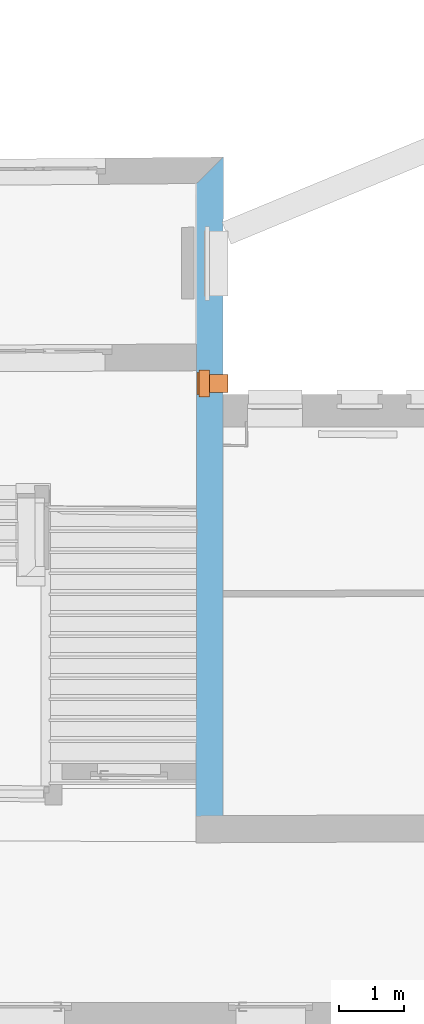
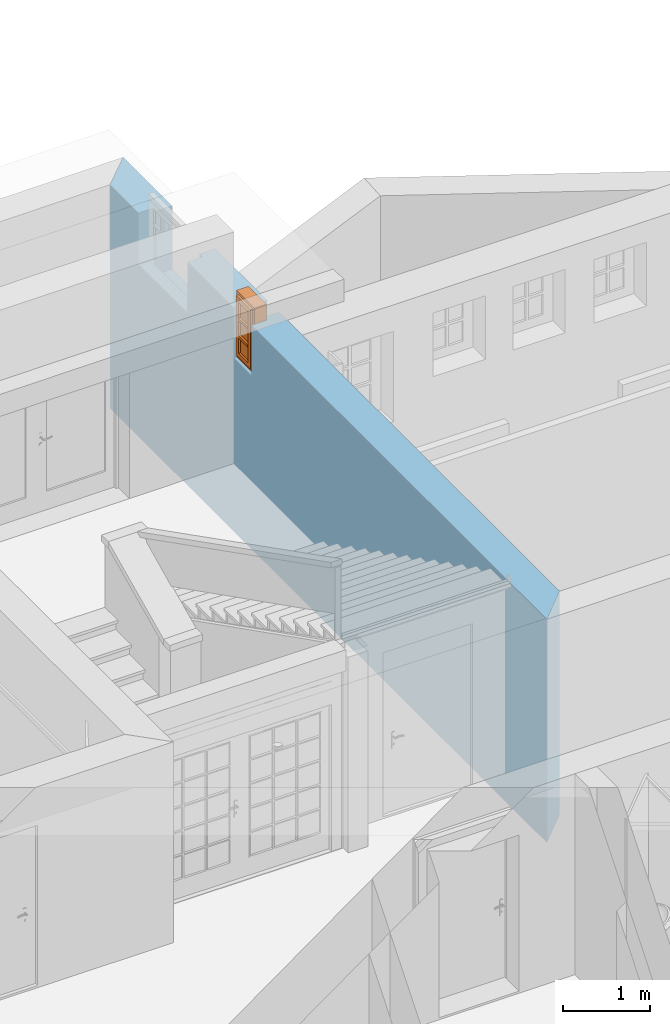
# One storey, part 41 of 196: 1 proxy, 2 openings, plus 1 element that does not belong to this part.
"""IFC2X3 building model written with IfcOpenShell, lengths in metres."""

from ifc_helpers import new_model, entity, si_unit, converted_unit, derived_unit, money_unit, direction, frame, origin_with_axes, origin_2d_with_axis, place, context, subcontext, project, spatial, polyline, rectangle, outline, extrude, faceted_brep, source, transform, mapped, material, layer, layer_set, layer_usage, type_object, element, fill, save


model = new_model("IFC2X3")

# Units and contexts
model_context = context("Model", 3, precision=1e-05, world=origin_with_axes(), true_north=direction((0.0, 1.0)))
body_context = subcontext(model_context, "Body", "Model", "MODEL_VIEW")
ifc_project = project(units=[si_unit("LENGTHUNIT", "METRE"), si_unit("AREAUNIT", "SQUARE_METRE"), si_unit("VOLUMEUNIT", "CUBIC_METRE"), converted_unit("PLANEANGLEUNIT", "DEGREE", entity("IfcPlaneAngleMeasure", 0.0174532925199), si_unit("PLANEANGLEUNIT", "RADIAN"), dimensions=[0, 0, 0, 0, 0, 0, 0]), money_unit("EUR"), converted_unit("TIMEUNIT", "Year", entity("IfcTimeMeasure", 31556926.0), si_unit("TIMEUNIT", "SECOND"), dimensions=[0, 0, 1, 0, 0, 0, 0]), si_unit("MASSUNIT", "GRAM", prefix="KILO"), si_unit("THERMODYNAMICTEMPERATUREUNIT", "DEGREE_CELSIUS"), si_unit("LUMINOUSINTENSITYUNIT", "LUMEN"), si_unit("ENERGYUNIT", "JOULE", prefix="MEGA"), derived_unit("THERMALCONDUCTANCEUNIT", [(si_unit("POWERUNIT", "WATT"), 1), (si_unit("LENGTHUNIT", "METRE"), -1), (si_unit("THERMODYNAMICTEMPERATUREUNIT", "KELVIN"), -1)]), derived_unit("SPECIFICHEATCAPACITYUNIT", [(si_unit("ENERGYUNIT", "JOULE"), 1), (si_unit("MASSUNIT", "GRAM", prefix="KILO"), -1), (si_unit("THERMODYNAMICTEMPERATUREUNIT", "KELVIN"), -1)]), derived_unit("MASSDENSITYUNIT", [(si_unit("MASSUNIT", "GRAM", prefix="KILO"), 1), (si_unit("VOLUMEUNIT", "CUBIC_METRE"), -1)])], contexts=[model_context])

# Site, building, storey
site_placement = place(None, origin_with_axes())
site = spatial("IfcSite", under=ifc_project, at=site_placement, Name="Gelände", CompositionType="ELEMENT")
building_placement = place(site_placement, origin_with_axes())
building = spatial("IfcBuilding", under=site, at=building_placement, Name="Gebäude", CompositionType="ELEMENT")
storey_placement = place(building_placement, frame((0.0, 0.0, -3.0), z_axis=(0.0, 0.0, 1.0), x_axis=(1.0, 0.0, 0.0)))
storey = spatial("IfcBuildingStorey", under=building, at=storey_placement, Name="KELLERGESCHOSS", CompositionType="ELEMENT", Elevation=-3.0)

# Wall, openings, proxy
ifc_material = material(Name="05_ALLGEMEIN - TRAGENDE BAUTEILE")
ifc_layer = layer(ifc_material, 0.41, ventilated="UNKNOWN")
ifc_layer_set = layer_set([ifc_layer], Name="05_ALLGEMEIN - TRAGENDE BAUTEILE 0.41")
ifc_layer_usage = layer_usage(ifc_layer_set, "AXIS2", "NEGATIVE", 0.41)
wall_type = type_object("IfcWallType", Name="05_ALLGEMEIN - TRAGENDE BAUTEILE 410", PredefinedType="ELEMENTEDWALL")
wall_placement = place(storey_placement, frame((-4.46535115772, 19.2470404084, -0.36), z_axis=(0.0, 0.0, 1.0), x_axis=(0.000440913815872, 0.999999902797, 0.0)))
wall = element("IfcWallStandardCase", 1, at=wall_placement, inside=storey, type_object=wall_type, material=ifc_layer_usage, Name="Wand-038", ObjectType="ELEMENTEDWALL", context=body_context, shape_type="SweptSolid", body=[
    extrude(outline(polyline([(0.414620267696, 0.0), (10.4949545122, 0.0), (10.0912333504, 0.41), (-0.00195577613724, 0.41), (0.414620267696, 0.0)])), origin_with_axes(), (0.0, 0.0, 1.0), 3.15),
])
opening_1_placement = place(wall_placement, frame((8.86652682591, 0.0, 2.42470466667), z_axis=(0.0, 0.0, 1.0), x_axis=(1.0, 0.0, 0.0)))
element("IfcOpeningElement", 2, at=opening_1_placement, cuts=wall, Name="Fenster-015", context=body_context, shape_type="SweptSolid", body=[
    extrude(rectangle(XDim=0.991326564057, YDim=0.884032, at=origin_2d_with_axis()), frame((0.0, 0.208421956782, 0.442016), z_axis=(0.0, 1.0, 0.0), x_axis=(1.0, 0.0, 0.0)), (0.0, 0.0, -1.0), 0.618421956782),
    extrude(rectangle(XDim=1.13132656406, YDim=0.954032, at=origin_2d_with_axis()), frame((0.0, 0.208421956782, 0.477016), z_axis=(0.0, -1.0, 0.0), x_axis=(1.0, 0.0, 0.0)), (0.0, 0.0, -1.0), 0.611578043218),
    extrude(rectangle(XDim=0.991326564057, YDim=0.162128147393, at=origin_2d_with_axis()), frame((0.0, 0.249259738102, -0.0810640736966), z_axis=(0.0, 1.0, 0.0), x_axis=(1.0, 0.0, 0.0)), (0.0, 0.0, -1.0), 0.45083778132),
])
opening_2_placement = place(wall_placement, frame((7.03221792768, 0.0, 2.44235066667), z_axis=(0.0, 0.0, 1.0), x_axis=(1.0, 0.0, 0.0)))
opening_2 = element("IfcOpeningElement", 3, at=opening_2_placement, cuts=wall, Name="Fenster-015", context=body_context, shape_type="SweptSolid", body=[
    extrude(rectangle(XDim=0.274211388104, YDim=0.866964, at=origin_2d_with_axis()), frame((0.0, 0.208421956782, 0.433482), z_axis=(0.0, 1.0, 0.0), x_axis=(1.0, 0.0, 0.0)), (0.0, 0.0, -1.0), 0.618421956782),
    extrude(rectangle(XDim=0.414211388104, YDim=0.936964, at=origin_2d_with_axis()), frame((0.0, 0.208421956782, 0.468482), z_axis=(0.0, -1.0, 0.0), x_axis=(1.0, 0.0, 0.0)), (0.0, 0.0, -1.0), 0.611578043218),
    extrude(rectangle(XDim=0.274211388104, YDim=0.162128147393, at=origin_2d_with_axis()), frame((0.0, 0.249259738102, -0.0810640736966), z_axis=(0.0, 1.0, 0.0), x_axis=(1.0, 0.0, 0.0)), (0.0, 0.0, -1.0), 0.45083778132),
])
building_element_proxy_type = type_object("IfcBuildingElementProxyType", Name="F Altbau 1-Fl 25", PredefinedType="NOTDEFINED")
shared_shape = source(origin_with_axes(), body_context, "Body", "Brep", [
    faceted_brep([(-0.137105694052, -0.14, 0.0), (-0.137105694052, -0.439259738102, -0.0527675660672), (0.137105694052, -0.439259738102, -0.0527675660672), (0.137105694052, -0.14, 0.0), (-0.137105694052, -0.11916221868, -0.118176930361), (-0.137105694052, -0.418421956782, -0.170944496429), (0.137105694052, -0.418421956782, -0.170944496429), (0.137105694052, -0.11916221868, -0.118176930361)], [[[0, 1, 2, 3]], [[0, 4, 5, 1]], [[1, 5, 6, 2]], [[3, 2, 6, 7]], [[4, 0, 3, 7]], [[5, 4, 7, 6]]]),
    faceted_brep([(-0.207105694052, -0.16, 0.0), (-0.207105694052, -0.14, 0.0), (-0.0971056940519, -0.14, 0.09), (-0.0971056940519, -0.16, 0.09), (-0.207105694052, -0.16, 0.936964), (-0.207105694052, -0.14, 0.936964), (-0.0971056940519, -0.14, 0.826964), (-0.0971056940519, -0.16, 0.826964)], [[[0, 1, 2, 3]], [[4, 5, 1, 0]], [[1, 5, 6, 2]], [[3, 2, 6, 7]], [[0, 3, 7, 4]], [[7, 6, 5, 4]]]),
    faceted_brep([(0.207105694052, -0.16, 0.0), (0.0971056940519, -0.16, 0.09), (0.0971056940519, -0.14, 0.09), (0.207105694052, -0.14, 0.0), (0.207105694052, -0.16, 0.936964), (0.0971056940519, -0.16, 0.826964), (0.0971056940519, -0.14, 0.826964), (0.207105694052, -0.14, 0.936964)], [[[0, 1, 2, 3]], [[0, 4, 5, 1]], [[1, 5, 6, 2]], [[3, 2, 6, 7]], [[4, 0, 3, 7]], [[5, 4, 7, 6]]]),
    faceted_brep([(-0.207105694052, -0.16, 0.0), (-0.207105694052, -0.14, 0.0), (0.207105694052, -0.14, 0.0), (0.207105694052, -0.16, 0.0), (-0.0971056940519, -0.16, 0.09), (-0.0971056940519, -0.14, 0.09), (0.0971056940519, -0.14, 0.09), (0.0971056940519, -0.16, 0.09)], [[[0, 1, 2, 3]], [[4, 5, 1, 0]], [[1, 5, 6, 2]], [[3, 2, 6, 7]], [[0, 3, 7, 4]], [[7, 6, 5, 4]]]),
    faceted_brep([(-0.207105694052, -0.16, 0.936964), (-0.207105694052, -0.14, 0.936964), (-0.0971056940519, -0.14, 0.826964), (-0.0971056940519, -0.16, 0.826964), (0.207105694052, -0.16, 0.936964), (0.207105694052, -0.14, 0.936964), (0.0971056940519, -0.14, 0.826964), (0.0971056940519, -0.16, 0.826964)], [[[0, 1, 2, 3]], [[4, 5, 1, 0]], [[1, 5, 6, 2]], [[3, 2, 6, 7]], [[0, 3, 7, 4]], [[7, 6, 5, 4]]]),
    faceted_brep([(-0.207105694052, -0.14, 0.0), (-0.207105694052, -0.11, 0.0), (0.207105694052, -0.11, 0.0), (0.207105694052, -0.14, 0.0), (-0.207105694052, -0.14, 0.936964), (-0.207105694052, -0.11, 0.936964), (0.207105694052, -0.11, 0.936964), (-0.117105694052, -0.11, 0.09), (0.117105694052, -0.11, 0.09), (0.117105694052, -0.11, 0.846964), (-0.117105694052, -0.11, 0.846964), (0.207105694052, -0.14, 0.936964), (-0.117105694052, -0.14, 0.09), (-0.117105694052, -0.14, 0.846964), (0.117105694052, -0.14, 0.846964), (0.117105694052, -0.14, 0.09)], [[[0, 1, 2, 3]], [[4, 5, 1, 0]], [[1, 5, 6, 2], [7, 8, 9, 10]], [[3, 2, 6, 11]], [[0, 3, 11, 4], [12, 13, 14, 15]], [[11, 6, 5, 4]], [[15, 8, 7, 12]], [[14, 9, 8, 15]], [[13, 10, 9, 14]], [[12, 7, 10, 13]]]),
    faceted_brep([(-0.207105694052, -0.11, 0.0), (-0.207105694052, -0.03, 0.0), (0.207105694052, -0.03, 0.0), (0.207105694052, -0.11, 0.0), (-0.207105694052, -0.11, 0.936964), (-0.207105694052, -0.03, 0.936964), (0.207105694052, -0.03, 0.936964), (-0.147105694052, -0.03, 0.06), (0.147105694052, -0.03, 0.06), (0.147105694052, -0.03, 0.876964), (-0.147105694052, -0.03, 0.876964), (0.207105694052, -0.11, 0.936964), (-0.147105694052, -0.11, 0.06), (-0.147105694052, -0.11, 0.876964), (0.147105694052, -0.11, 0.876964), (0.147105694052, -0.11, 0.06)], [[[0, 1, 2, 3]], [[4, 5, 1, 0]], [[1, 5, 6, 2], [7, 8, 9, 10]], [[3, 2, 6, 11]], [[0, 3, 11, 4], [12, 13, 14, 15]], [[11, 6, 5, 4]], [[15, 8, 7, 12]], [[14, 9, 8, 15]], [[13, 10, 9, 14]], [[12, 7, 10, 13]]]),
    faceted_brep([(-0.207105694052, -0.03, 0.0), (-0.207105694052, 0.0, 0.0), (-0.167105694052, 0.0, 0.06), (-0.167105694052, -0.03, 0.06), (-0.207105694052, -0.03, 0.936964), (-0.207105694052, 0.0, 0.936964), (-0.167105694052, 0.0, 0.896964), (-0.167105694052, -0.03, 0.896964)], [[[0, 1, 2, 3]], [[4, 5, 1, 0]], [[1, 5, 6, 2]], [[3, 2, 6, 7]], [[0, 3, 7, 4]], [[7, 6, 5, 4]]]),
    faceted_brep([(0.207105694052, -0.03, 0.0), (0.167105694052, -0.03, 0.06), (0.167105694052, 0.0, 0.06), (0.207105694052, 0.0, 0.0), (0.207105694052, -0.03, 0.936964), (0.167105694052, -0.03, 0.896964), (0.167105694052, 0.0, 0.896964), (0.207105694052, 0.0, 0.936964)], [[[0, 1, 2, 3]], [[0, 4, 5, 1]], [[1, 5, 6, 2]], [[3, 2, 6, 7]], [[4, 0, 3, 7]], [[5, 4, 7, 6]]]),
    faceted_brep([(-0.207105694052, -0.03, 0.0), (-0.207105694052, 0.0, 0.0), (0.207105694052, 0.0, 0.0), (0.207105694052, -0.03, 0.0), (-0.167105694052, -0.03, 0.06), (-0.167105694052, 0.0, 0.06), (0.167105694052, 0.0, 0.06), (0.167105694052, -0.03, 0.06)], [[[0, 1, 2, 3]], [[4, 5, 1, 0]], [[1, 5, 6, 2]], [[3, 2, 6, 7]], [[0, 3, 7, 4]], [[7, 6, 5, 4]]]),
    faceted_brep([(-0.207105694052, -0.03, 0.936964), (-0.207105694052, 0.0, 0.936964), (-0.167105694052, 0.0, 0.896964), (-0.167105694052, -0.03, 0.896964), (0.207105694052, -0.03, 0.936964), (0.207105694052, 0.0, 0.936964), (0.167105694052, 0.0, 0.896964), (0.167105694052, -0.03, 0.896964)], [[[0, 1, 2, 3]], [[4, 5, 1, 0]], [[1, 5, 6, 2]], [[3, 2, 6, 7]], [[0, 3, 7, 4]], [[7, 6, 5, 4]]]),
    faceted_brep([(-0.117105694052, -0.14, 0.09), (-0.117105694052, -0.11, 0.09), (-0.0571056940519, -0.11, 0.15), (-0.0571056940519, -0.14, 0.15), (-0.117105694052, -0.14, 0.846964), (-0.117105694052, -0.11, 0.846964), (-0.0571056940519, -0.11, 0.786964), (-0.0571056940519, -0.14, 0.786964)], [[[0, 1, 2, 3]], [[4, 5, 1, 0]], [[1, 5, 6, 2]], [[3, 2, 6, 7]], [[0, 3, 7, 4]], [[7, 6, 5, 4]]]),
    faceted_brep([(-0.117105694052, -0.11, 0.09), (-0.117105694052, -0.08, 0.09), (-0.0571056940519, -0.08, 0.15), (-0.0571056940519, -0.11, 0.15), (-0.117105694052, -0.11, 0.846964), (-0.117105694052, -0.08, 0.846964), (-0.0571056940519, -0.08, 0.786964), (-0.0571056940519, -0.11, 0.786964)], [[[0, 1, 2, 3]], [[4, 5, 1, 0]], [[1, 5, 6, 2]], [[3, 2, 6, 7]], [[0, 3, 7, 4]], [[7, 6, 5, 4]]]),
    faceted_brep([(0.117105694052, -0.14, 0.09), (0.0571056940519, -0.14, 0.15), (0.0571056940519, -0.11, 0.15), (0.117105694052, -0.11, 0.09), (0.117105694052, -0.14, 0.846964), (0.0571056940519, -0.14, 0.786964), (0.0571056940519, -0.11, 0.786964), (0.117105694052, -0.11, 0.846964)], [[[0, 1, 2, 3]], [[0, 4, 5, 1]], [[1, 5, 6, 2]], [[3, 2, 6, 7]], [[4, 0, 3, 7]], [[5, 4, 7, 6]]]),
    faceted_brep([(0.117105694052, -0.11, 0.09), (0.0571056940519, -0.11, 0.15), (0.0571056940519, -0.08, 0.15), (0.117105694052, -0.08, 0.09), (0.117105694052, -0.11, 0.846964), (0.0571056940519, -0.11, 0.786964), (0.0571056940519, -0.08, 0.786964), (0.117105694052, -0.08, 0.846964)], [[[0, 1, 2, 3]], [[0, 4, 5, 1]], [[1, 5, 6, 2]], [[3, 2, 6, 7]], [[4, 0, 3, 7]], [[5, 4, 7, 6]]]),
    faceted_brep([(-0.117105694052, -0.14, 0.09), (-0.117105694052, -0.11, 0.09), (0.117105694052, -0.11, 0.09), (0.117105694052, -0.14, 0.09), (-0.0571056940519, -0.14, 0.15), (-0.0571056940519, -0.11, 0.15), (0.0571056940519, -0.11, 0.15), (0.0571056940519, -0.14, 0.15)], [[[0, 1, 2, 3]], [[4, 5, 1, 0]], [[1, 5, 6, 2]], [[3, 2, 6, 7]], [[0, 3, 7, 4]], [[7, 6, 5, 4]]]),
    faceted_brep([(-0.117105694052, -0.11, 0.09), (-0.117105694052, -0.08, 0.09), (0.117105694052, -0.08, 0.09), (0.117105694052, -0.11, 0.09), (-0.0571056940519, -0.11, 0.15), (-0.0571056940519, -0.08, 0.15), (0.0571056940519, -0.08, 0.15), (0.0571056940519, -0.11, 0.15)], [[[0, 1, 2, 3]], [[4, 5, 1, 0]], [[1, 5, 6, 2]], [[3, 2, 6, 7]], [[0, 3, 7, 4]], [[7, 6, 5, 4]]]),
    faceted_brep([(-0.117105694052, -0.14, 0.846964), (0.117105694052, -0.14, 0.846964), (0.117105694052, -0.11, 0.846964), (-0.117105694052, -0.11, 0.846964), (-0.0571056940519, -0.14, 0.786964), (0.0571056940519, -0.14, 0.786964), (0.0571056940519, -0.11, 0.786964), (-0.0571056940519, -0.11, 0.786964)], [[[0, 1, 2, 3]], [[0, 4, 5, 1]], [[1, 5, 6, 2]], [[3, 2, 6, 7]], [[4, 0, 3, 7]], [[5, 4, 7, 6]]]),
    faceted_brep([(-0.117105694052, -0.11, 0.846964), (0.117105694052, -0.11, 0.846964), (0.117105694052, -0.08, 0.846964), (-0.117105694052, -0.08, 0.846964), (-0.0571056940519, -0.11, 0.786964), (0.0571056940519, -0.11, 0.786964), (0.0571056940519, -0.08, 0.786964), (-0.0571056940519, -0.08, 0.786964)], [[[0, 1, 2, 3]], [[0, 4, 5, 1]], [[1, 5, 6, 2]], [[3, 2, 6, 7]], [[4, 0, 3, 7]], [[5, 4, 7, 6]]]),
    faceted_brep([(-0.0571056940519, -0.145, 0.338988), (-0.0571056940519, -0.11, 0.338988), (0.0571056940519, -0.11, 0.338988), (0.0571056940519, -0.145, 0.338988), (-0.0571056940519, -0.145, 0.373988), (-0.0571056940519, -0.11, 0.373988), (0.0571056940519, -0.11, 0.373988), (0.0571056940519, -0.145, 0.373988)], [[[0, 1, 2, 3]], [[4, 5, 1, 0]], [[1, 5, 6, 2]], [[3, 2, 6, 7]], [[0, 3, 7, 4]], [[7, 6, 5, 4]]]),
    faceted_brep([(-0.0571056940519, -0.11, 0.338988), (-0.0571056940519, -0.075, 0.338988), (0.0571056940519, -0.075, 0.338988), (0.0571056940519, -0.11, 0.338988), (-0.0571056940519, -0.11, 0.373988), (-0.0571056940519, -0.075, 0.373988), (0.0571056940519, -0.075, 0.373988), (0.0571056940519, -0.11, 0.373988)], [[[0, 1, 2, 3]], [[4, 5, 1, 0]], [[1, 5, 6, 2]], [[3, 2, 6, 7]], [[0, 3, 7, 4]], [[7, 6, 5, 4]]]),
    faceted_brep([(-0.0571056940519, -0.145, 0.562976), (-0.0571056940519, -0.11, 0.562976), (0.0571056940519, -0.11, 0.562976), (0.0571056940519, -0.145, 0.562976), (-0.0571056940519, -0.145, 0.597976), (-0.0571056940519, -0.11, 0.597976), (0.0571056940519, -0.11, 0.597976), (0.0571056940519, -0.145, 0.597976)], [[[0, 1, 2, 3]], [[4, 5, 1, 0]], [[1, 5, 6, 2]], [[3, 2, 6, 7]], [[0, 3, 7, 4]], [[7, 6, 5, 4]]]),
    faceted_brep([(-0.0571056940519, -0.11, 0.562976), (-0.0571056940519, -0.075, 0.562976), (0.0571056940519, -0.075, 0.562976), (0.0571056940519, -0.11, 0.562976), (-0.0571056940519, -0.11, 0.597976), (-0.0571056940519, -0.075, 0.597976), (0.0571056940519, -0.075, 0.597976), (0.0571056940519, -0.11, 0.597976)], [[[0, 1, 2, 3]], [[4, 5, 1, 0]], [[1, 5, 6, 2]], [[3, 2, 6, 7]], [[0, 3, 7, 4]], [[7, 6, 5, 4]]]),
    faceted_brep([(0.0571056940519, -0.105, 0.562976), (0.0571056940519, -0.115, 0.562976), (0.0571056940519, -0.115, 0.373988), (0.0571056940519, -0.105, 0.373988), (-0.0571056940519, -0.115, 0.562976), (-0.0571056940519, -0.105, 0.562976), (-0.0571056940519, -0.115, 0.373988), (-0.0571056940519, -0.105, 0.373988)], [[[0, 1, 2, 3]], [[4, 1, 0, 5]], [[1, 4, 6, 2]], [[2, 6, 7, 3]], [[5, 0, 3, 7]], [[4, 5, 7, 6]]]),
    faceted_brep([(0.0571056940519, -0.115, 0.15), (0.0571056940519, -0.105, 0.15), (0.0571056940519, -0.105, 0.338988), (0.0571056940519, -0.115, 0.338988), (-0.0571056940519, -0.115, 0.15), (-0.0571056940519, -0.105, 0.15), (-0.0571056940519, -0.105, 0.338988), (-0.0571056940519, -0.115, 0.338988)], [[[0, 1, 2, 3]], [[0, 4, 5, 1]], [[1, 5, 6, 2]], [[2, 6, 7, 3]], [[4, 0, 3, 7]], [[5, 4, 7, 6]]]),
    faceted_brep([(-0.0571056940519, -0.115, 0.597976), (0.0571056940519, -0.115, 0.597976), (0.0571056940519, -0.115, 0.786964), (-0.0571056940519, -0.115, 0.786964), (0.0571056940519, -0.105, 0.597976), (-0.0571056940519, -0.105, 0.597976), (0.0571056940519, -0.105, 0.786964), (-0.0571056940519, -0.105, 0.786964)], [[[0, 1, 2, 3]], [[4, 1, 0, 5]], [[1, 4, 6, 2]], [[7, 3, 2, 6]], [[5, 0, 3, 7]], [[4, 5, 7, 6]]]),
    faceted_brep([(-0.167105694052, -0.03, 0.06), (-0.167105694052, 0.0, 0.06), (-0.107105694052, 0.0, 0.12), (-0.107105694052, -0.03, 0.12), (-0.167105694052, -0.03, 0.896964), (-0.167105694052, 0.0, 0.896964), (-0.107105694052, 0.0, 0.836964), (-0.107105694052, -0.03, 0.836964)], [[[0, 1, 2, 3]], [[4, 5, 1, 0]], [[1, 5, 6, 2]], [[3, 2, 6, 7]], [[0, 3, 7, 4]], [[7, 6, 5, 4]]]),
    faceted_brep([(-0.167105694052, 0.0, 0.06), (-0.167105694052, 0.03, 0.06), (-0.107105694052, 0.03, 0.12), (-0.107105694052, 0.0, 0.12), (-0.167105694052, 0.0, 0.896964), (-0.167105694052, 0.03, 0.896964), (-0.107105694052, 0.03, 0.836964), (-0.107105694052, 0.0, 0.836964)], [[[0, 1, 2, 3]], [[4, 5, 1, 0]], [[1, 5, 6, 2]], [[3, 2, 6, 7]], [[0, 3, 7, 4]], [[7, 6, 5, 4]]]),
    faceted_brep([(0.167105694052, -0.03, 0.06), (0.107105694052, -0.03, 0.12), (0.107105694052, 0.0, 0.12), (0.167105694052, 0.0, 0.06), (0.167105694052, -0.03, 0.896964), (0.107105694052, -0.03, 0.836964), (0.107105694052, 0.0, 0.836964), (0.167105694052, 0.0, 0.896964)], [[[0, 1, 2, 3]], [[0, 4, 5, 1]], [[1, 5, 6, 2]], [[3, 2, 6, 7]], [[4, 0, 3, 7]], [[5, 4, 7, 6]]]),
    faceted_brep([(0.167105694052, 0.0, 0.06), (0.107105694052, 0.0, 0.12), (0.107105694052, 0.03, 0.12), (0.167105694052, 0.03, 0.06), (0.167105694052, 0.0, 0.896964), (0.107105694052, 0.0, 0.836964), (0.107105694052, 0.03, 0.836964), (0.167105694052, 0.03, 0.896964)], [[[0, 1, 2, 3]], [[0, 4, 5, 1]], [[1, 5, 6, 2]], [[3, 2, 6, 7]], [[4, 0, 3, 7]], [[5, 4, 7, 6]]]),
    faceted_brep([(-0.167105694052, -0.03, 0.06), (-0.167105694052, 0.0, 0.06), (0.167105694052, 0.0, 0.06), (0.167105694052, -0.03, 0.06), (-0.107105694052, -0.03, 0.12), (-0.107105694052, 0.0, 0.12), (0.107105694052, 0.0, 0.12), (0.107105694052, -0.03, 0.12)], [[[0, 1, 2, 3]], [[4, 5, 1, 0]], [[1, 5, 6, 2]], [[3, 2, 6, 7]], [[0, 3, 7, 4]], [[7, 6, 5, 4]]]),
    faceted_brep([(-0.167105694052, 0.0, 0.06), (-0.167105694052, 0.03, 0.06), (0.167105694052, 0.03, 0.06), (0.167105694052, 0.0, 0.06), (-0.107105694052, 0.0, 0.12), (-0.107105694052, 0.03, 0.12), (0.107105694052, 0.03, 0.12), (0.107105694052, 0.0, 0.12)], [[[0, 1, 2, 3]], [[4, 5, 1, 0]], [[1, 5, 6, 2]], [[3, 2, 6, 7]], [[0, 3, 7, 4]], [[7, 6, 5, 4]]]),
    faceted_brep([(-0.167105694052, -0.03, 0.896964), (0.167105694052, -0.03, 0.896964), (0.167105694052, 0.0, 0.896964), (-0.167105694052, 0.0, 0.896964), (-0.107105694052, -0.03, 0.836964), (0.107105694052, -0.03, 0.836964), (0.107105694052, 0.0, 0.836964), (-0.107105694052, 0.0, 0.836964)], [[[0, 1, 2, 3]], [[0, 4, 5, 1]], [[1, 5, 6, 2]], [[3, 2, 6, 7]], [[4, 0, 3, 7]], [[5, 4, 7, 6]]]),
    faceted_brep([(-0.167105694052, 0.0, 0.896964), (0.167105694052, 0.0, 0.896964), (0.167105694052, 0.03, 0.896964), (-0.167105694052, 0.03, 0.896964), (-0.107105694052, 0.0, 0.836964), (0.107105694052, 0.0, 0.836964), (0.107105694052, 0.03, 0.836964), (-0.107105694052, 0.03, 0.836964)], [[[0, 1, 2, 3]], [[0, 4, 5, 1]], [[1, 5, 6, 2]], [[3, 2, 6, 7]], [[4, 0, 3, 7]], [[5, 4, 7, 6]]]),
    faceted_brep([(-0.107105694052, -0.035, 0.335654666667), (-0.107105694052, 0.0, 0.335654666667), (0.107105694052, 0.0, 0.335654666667), (0.107105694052, -0.035, 0.335654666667), (-0.107105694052, -0.035, 0.370654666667), (-0.107105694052, 0.0, 0.370654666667), (0.107105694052, 0.0, 0.370654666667), (0.107105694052, -0.035, 0.370654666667)], [[[0, 1, 2, 3]], [[4, 5, 1, 0]], [[1, 5, 6, 2]], [[3, 2, 6, 7]], [[0, 3, 7, 4]], [[7, 6, 5, 4]]]),
    faceted_brep([(-0.107105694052, 0.0, 0.335654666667), (-0.107105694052, 0.035, 0.335654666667), (0.107105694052, 0.035, 0.335654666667), (0.107105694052, 0.0, 0.335654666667), (-0.107105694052, 0.0, 0.370654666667), (-0.107105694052, 0.035, 0.370654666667), (0.107105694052, 0.035, 0.370654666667), (0.107105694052, 0.0, 0.370654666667)], [[[0, 1, 2, 3]], [[4, 5, 1, 0]], [[1, 5, 6, 2]], [[3, 2, 6, 7]], [[0, 3, 7, 4]], [[7, 6, 5, 4]]]),
    faceted_brep([(-0.107105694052, -0.035, 0.586309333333), (-0.107105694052, 0.0, 0.586309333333), (0.107105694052, 0.0, 0.586309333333), (0.107105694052, -0.035, 0.586309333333), (-0.107105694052, -0.035, 0.621309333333), (-0.107105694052, 0.0, 0.621309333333), (0.107105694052, 0.0, 0.621309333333), (0.107105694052, -0.035, 0.621309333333)], [[[0, 1, 2, 3]], [[4, 5, 1, 0]], [[1, 5, 6, 2]], [[3, 2, 6, 7]], [[0, 3, 7, 4]], [[7, 6, 5, 4]]]),
    faceted_brep([(-0.107105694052, 0.0, 0.586309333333), (-0.107105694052, 0.035, 0.586309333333), (0.107105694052, 0.035, 0.586309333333), (0.107105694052, 0.0, 0.586309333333), (-0.107105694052, 0.0, 0.621309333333), (-0.107105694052, 0.035, 0.621309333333), (0.107105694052, 0.035, 0.621309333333), (0.107105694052, 0.0, 0.621309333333)], [[[0, 1, 2, 3]], [[4, 5, 1, 0]], [[1, 5, 6, 2]], [[3, 2, 6, 7]], [[0, 3, 7, 4]], [[7, 6, 5, 4]]]),
    faceted_brep([(0.107105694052, 0.005, 0.586309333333), (0.107105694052, -0.005, 0.586309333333), (0.107105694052, -0.005, 0.370654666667), (0.107105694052, 0.005, 0.370654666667), (-0.107105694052, -0.005, 0.586309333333), (-0.107105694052, 0.005, 0.586309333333), (-0.107105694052, -0.005, 0.370654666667), (-0.107105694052, 0.005, 0.370654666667)], [[[0, 1, 2, 3]], [[4, 1, 0, 5]], [[1, 4, 6, 2]], [[2, 6, 7, 3]], [[5, 0, 3, 7]], [[4, 5, 7, 6]]]),
    faceted_brep([(0.107105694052, -0.005, 0.12), (0.107105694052, 0.005, 0.12), (0.107105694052, 0.005, 0.335654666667), (0.107105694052, -0.005, 0.335654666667), (-0.107105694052, -0.005, 0.12), (-0.107105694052, 0.005, 0.12), (-0.107105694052, 0.005, 0.335654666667), (-0.107105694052, -0.005, 0.335654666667)], [[[0, 1, 2, 3]], [[0, 4, 5, 1]], [[1, 5, 6, 2]], [[2, 6, 7, 3]], [[4, 0, 3, 7]], [[5, 4, 7, 6]]]),
    faceted_brep([(-0.107105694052, -0.005, 0.621309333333), (0.107105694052, -0.005, 0.621309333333), (0.107105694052, -0.005, 0.836964), (-0.107105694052, -0.005, 0.836964), (0.107105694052, 0.005, 0.621309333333), (-0.107105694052, 0.005, 0.621309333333), (0.107105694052, 0.005, 0.836964), (-0.107105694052, 0.005, 0.836964)], [[[0, 1, 2, 3]], [[4, 1, 0, 5]], [[1, 4, 6, 2]], [[7, 3, 2, 6]], [[5, 0, 3, 7]], [[4, 5, 7, 6]]]),
])
proxy_placement = place(opening_2_placement, frame((-0.207105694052, 0.0, 0.0), z_axis=(0.0, 0.0, 1.0), x_axis=(1.0, 0.0, 0.0)))
proxy = element("IfcBuildingElementProxy", 4, at=proxy_placement, inside=storey, type_object=building_element_proxy_type, Name="Fenster-015", context=body_context, shape_type="MappedRepresentation", body=[
    mapped(shared_shape, transform((0.207105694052, 0.368421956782, 0.0))),
])
fill(opening_2, proxy)

save(model, "model.ifc")
